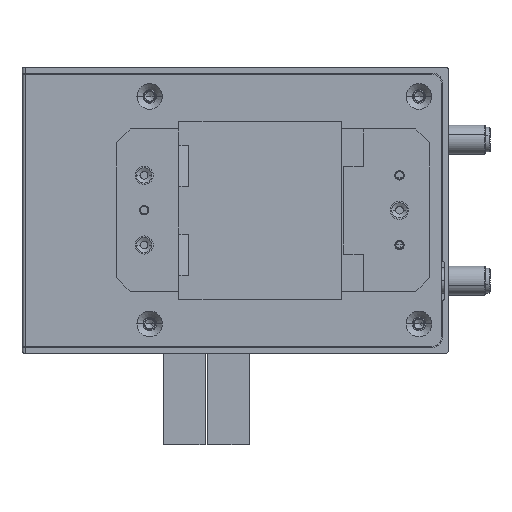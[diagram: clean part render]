
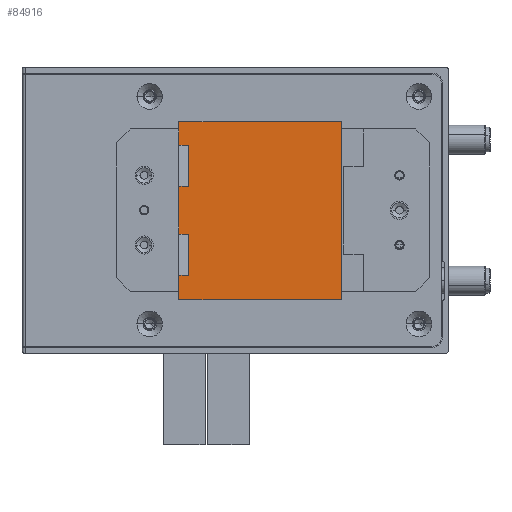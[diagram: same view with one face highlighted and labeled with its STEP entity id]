
A CAD part, front view. The second image highlights one B-rep face of the part: STEP entity #84916.
In plain terms, the highlighted planar face has unit normal (0, -1, 0) as drawn and (0, 0, 1) by its records, which use the part's own axes.
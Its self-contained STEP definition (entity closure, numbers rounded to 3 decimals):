
#3074 = VECTOR ( 'NONE', #76991, 1000. ) ;
#3515 = VERTEX_POINT ( 'NONE', #309366 ) ;
#4145 = CARTESIAN_POINT ( 'NONE',  ( -20.25, 19.053, 6.3 ) ) ;
#11792 = ORIENTED_EDGE ( 'NONE', *, *, #52098, .T. ) ;
#13481 = DIRECTION ( 'NONE',  ( 0., 1., 0. ) ) ;
#15703 = LINE ( 'NONE', #267090, #335601 ) ;
#16729 = CARTESIAN_POINT ( 'NONE',  ( -20.25, 19.053, 6.3 ) ) ;
#22588 = CARTESIAN_POINT ( 'NONE',  ( -20.25, -14., 6.3 ) ) ;
#25202 = CARTESIAN_POINT ( 'NONE',  ( -20.25, -14., 6.3 ) ) ;
#31934 = VERTEX_POINT ( 'NONE', #101411 ) ;
#36085 = CARTESIAN_POINT ( 'NONE',  ( -20.25, 19.053, 6.3 ) ) ;
#37862 = EDGE_CURVE ( 'NONE', #250487, #343105, #200375, .T. ) ;
#39789 = VERTEX_POINT ( 'NONE', #371834 ) ;
#49206 = CARTESIAN_POINT ( 'NONE',  ( -20.25, 19.053, 6.3 ) ) ;
#52098 = EDGE_CURVE ( 'NONE', #31934, #250487, #127246, .T. ) ;
#58810 = EDGE_LOOP ( 'NONE', ( #237501, #87373, #250793, #283236, #295769, #83891, #216939, #242701, #374431, #245243, #382713, #11792, #131842, #249594 ) ) ;
#60573 = DIRECTION ( 'NONE',  ( 1., 0., 0. ) ) ;
#66681 = CARTESIAN_POINT ( 'NONE',  ( -20.028, -14., 6.3 ) ) ;
#66905 = CARTESIAN_POINT ( 'NONE',  ( 0., 0., 6.3 ) ) ;
#67903 = AXIS2_PLACEMENT_3D ( 'NONE', #66905, #193480, #378567 ) ;
#76991 = DIRECTION ( 'NONE',  ( 0., -1., 0. ) ) ;
#78798 = DIRECTION ( 'NONE',  ( -1., 0., 0. ) ) ;
#83891 = ORIENTED_EDGE ( 'NONE', *, *, #149734, .T. ) ;
#84916 = ADVANCED_FACE ( 'NONE', ( #135034 ), #263281, .T. ) ;
#86656 = LINE ( 'NONE', #118851, #205018 ) ;
#87373 = ORIENTED_EDGE ( 'NONE', *, *, #330365, .T. ) ;
#94265 = LINE ( 'NONE', #36085, #375580 ) ;
#94995 = DIRECTION ( 'NONE',  ( 1., 0., 0. ) ) ;
#97506 = EDGE_CURVE ( 'NONE', #3515, #97962, #150669, .T. ) ;
#97962 = VERTEX_POINT ( 'NONE', #66681 ) ;
#98311 = CARTESIAN_POINT ( 'NONE',  ( -20.25, 17.5, 6.3 ) ) ;
#101411 = CARTESIAN_POINT ( 'NONE',  ( -20.25, 14., 6.3 ) ) ;
#110005 = DIRECTION ( 'NONE',  ( -1., 0., 0. ) ) ;
#115443 = CARTESIAN_POINT ( 'NONE',  ( -20.25, -5.15, 6.3 ) ) ;
#115674 = EDGE_CURVE ( 'NONE', #142641, #281800, #86656, .T. ) ;
#118060 = DIRECTION ( 'NONE',  ( 0., -1., 0. ) ) ;
#118851 = CARTESIAN_POINT ( 'NONE',  ( -20.25, 19.053, 6.3 ) ) ;
#127246 = LINE ( 'NONE', #180142, #240033 ) ;
#128902 = VECTOR ( 'NONE', #389579, 1000. ) ;
#131842 = ORIENTED_EDGE ( 'NONE', *, *, #37862, .T. ) ;
#135034 = FACE_OUTER_BOUND ( 'NONE', #58810, .T. ) ;
#135804 = VECTOR ( 'NONE', #295365, 1000. ) ;
#140474 = CARTESIAN_POINT ( 'NONE',  ( -20.25, 19.053, 6.3 ) ) ;
#142641 = VERTEX_POINT ( 'NONE', #4145 ) ;
#146296 = EDGE_CURVE ( 'NONE', #146946, #247669, #389975, .T. ) ;
#146946 = VERTEX_POINT ( 'NONE', #291527 ) ;
#149734 = EDGE_CURVE ( 'NONE', #376991, #146946, #204644, .T. ) ;
#150669 = LINE ( 'NONE', #365913, #220070 ) ;
#154853 = VECTOR ( 'NONE', #175848, 1000. ) ;
#156600 = VECTOR ( 'NONE', #60573, 1000. ) ;
#168657 = VERTEX_POINT ( 'NONE', #25202 ) ;
#170836 = VERTEX_POINT ( 'NONE', #323936 ) ;
#175848 = DIRECTION ( 'NONE',  ( 0., -1., 0. ) ) ;
#180142 = CARTESIAN_POINT ( 'NONE',  ( -20.25, 14., 6.3 ) ) ;
#186110 = CARTESIAN_POINT ( 'NONE',  ( -20.028, 5.15, 6.3 ) ) ;
#188716 = EDGE_CURVE ( 'NONE', #281800, #31934, #234316, .T. ) ;
#193480 = DIRECTION ( 'NONE',  ( 0., 0., 1. ) ) ;
#196394 = CARTESIAN_POINT ( 'NONE',  ( -20.028, 14., 6.3 ) ) ;
#199044 = EDGE_CURVE ( 'NONE', #168657, #376991, #324322, .T. ) ;
#200375 = LINE ( 'NONE', #383543, #128902 ) ;
#204644 = LINE ( 'NONE', #395767, #241542 ) ;
#205018 = VECTOR ( 'NONE', #241656, 1000. ) ;
#205512 = LINE ( 'NONE', #22588, #239855 ) ;
#206860 = CARTESIAN_POINT ( 'NONE',  ( 14.75, -19.299, 6.3 ) ) ;
#206992 = DIRECTION ( 'NONE',  ( 0., -1., 0. ) ) ;
#216939 = ORIENTED_EDGE ( 'NONE', *, *, #146296, .T. ) ;
#220070 = VECTOR ( 'NONE', #206992, 1000. ) ;
#230616 = EDGE_CURVE ( 'NONE', #247669, #170836, #315212, .T. ) ;
#234316 = LINE ( 'NONE', #49206, #154853 ) ;
#236542 = EDGE_CURVE ( 'NONE', #343105, #39789, #15703, .T. ) ;
#237501 = ORIENTED_EDGE ( 'NONE', *, *, #277495, .T. ) ;
#239625 = CARTESIAN_POINT ( 'NONE',  ( -20.25, -5.15, 6.3 ) ) ;
#239855 = VECTOR ( 'NONE', #78798, 1000. ) ;
#240033 = VECTOR ( 'NONE', #94995, 1000. ) ;
#241542 = VECTOR ( 'NONE', #118060, 1000. ) ;
#241656 = DIRECTION ( 'NONE',  ( 0., -1., 0. ) ) ;
#242041 = EDGE_CURVE ( 'NONE', #97962, #168657, #205512, .T. ) ;
#242701 = ORIENTED_EDGE ( 'NONE', *, *, #230616, .T. ) ;
#245243 = ORIENTED_EDGE ( 'NONE', *, *, #115674, .T. ) ;
#247669 = VERTEX_POINT ( 'NONE', #206860 ) ;
#249594 = ORIENTED_EDGE ( 'NONE', *, *, #236542, .T. ) ;
#250487 = VERTEX_POINT ( 'NONE', #196394 ) ;
#250793 = ORIENTED_EDGE ( 'NONE', *, *, #97506, .T. ) ;
#263281 = PLANE ( 'NONE',  #67903 ) ;
#265264 = CARTESIAN_POINT ( 'NONE',  ( -20.25, -19.299, 6.3 ) ) ;
#267090 = CARTESIAN_POINT ( 'NONE',  ( -20.25, 5.15, 6.3 ) ) ;
#271685 = EDGE_CURVE ( 'NONE', #170836, #142641, #94265, .T. ) ;
#271836 = LINE ( 'NONE', #239625, #156600 ) ;
#277495 = EDGE_CURVE ( 'NONE', #39789, #307661, #325515, .T. ) ;
#281800 = VERTEX_POINT ( 'NONE', #98311 ) ;
#283236 = ORIENTED_EDGE ( 'NONE', *, *, #242041, .T. ) ;
#291527 = CARTESIAN_POINT ( 'NONE',  ( -20.25, -19.299, 6.3 ) ) ;
#295365 = DIRECTION ( 'NONE',  ( 1., 0., 0. ) ) ;
#295769 = ORIENTED_EDGE ( 'NONE', *, *, #199044, .T. ) ;
#307661 = VERTEX_POINT ( 'NONE', #115443 ) ;
#308621 = CARTESIAN_POINT ( 'NONE',  ( -20.25, -17.5, 6.3 ) ) ;
#309366 = CARTESIAN_POINT ( 'NONE',  ( -20.028, -5.15, 6.3 ) ) ;
#315212 = LINE ( 'NONE', #345377, #343858 ) ;
#323936 = CARTESIAN_POINT ( 'NONE',  ( 14.75, 19.053, 6.3 ) ) ;
#324322 = LINE ( 'NONE', #16729, #3074 ) ;
#325515 = LINE ( 'NONE', #140474, #387475 ) ;
#330365 = EDGE_CURVE ( 'NONE', #307661, #3515, #271836, .T. ) ;
#335601 = VECTOR ( 'NONE', #110005, 1000. ) ;
#343105 = VERTEX_POINT ( 'NONE', #186110 ) ;
#343858 = VECTOR ( 'NONE', #13481, 1000. ) ;
#345377 = CARTESIAN_POINT ( 'NONE',  ( 14.75, 19.053, 6.3 ) ) ;
#365913 = CARTESIAN_POINT ( 'NONE',  ( -20.028, 17.5, 6.3 ) ) ;
#371834 = CARTESIAN_POINT ( 'NONE',  ( -20.25, 5.15, 6.3 ) ) ;
#373889 = DIRECTION ( 'NONE',  ( -1., 0., 0. ) ) ;
#374431 = ORIENTED_EDGE ( 'NONE', *, *, #271685, .T. ) ;
#375580 = VECTOR ( 'NONE', #373889, 1000. ) ;
#376991 = VERTEX_POINT ( 'NONE', #308621 ) ;
#378567 = DIRECTION ( 'NONE',  ( 1., 0., 0. ) ) ;
#382713 = ORIENTED_EDGE ( 'NONE', *, *, #188716, .T. ) ;
#383543 = CARTESIAN_POINT ( 'NONE',  ( -20.028, 17.5, 6.3 ) ) ;
#383980 = DIRECTION ( 'NONE',  ( 0., -1., 0. ) ) ;
#387475 = VECTOR ( 'NONE', #383980, 1000. ) ;
#389579 = DIRECTION ( 'NONE',  ( 0., -1., 0. ) ) ;
#389975 = LINE ( 'NONE', #265264, #135804 ) ;
#395767 = CARTESIAN_POINT ( 'NONE',  ( -20.25, 19.053, 6.3 ) ) ;
